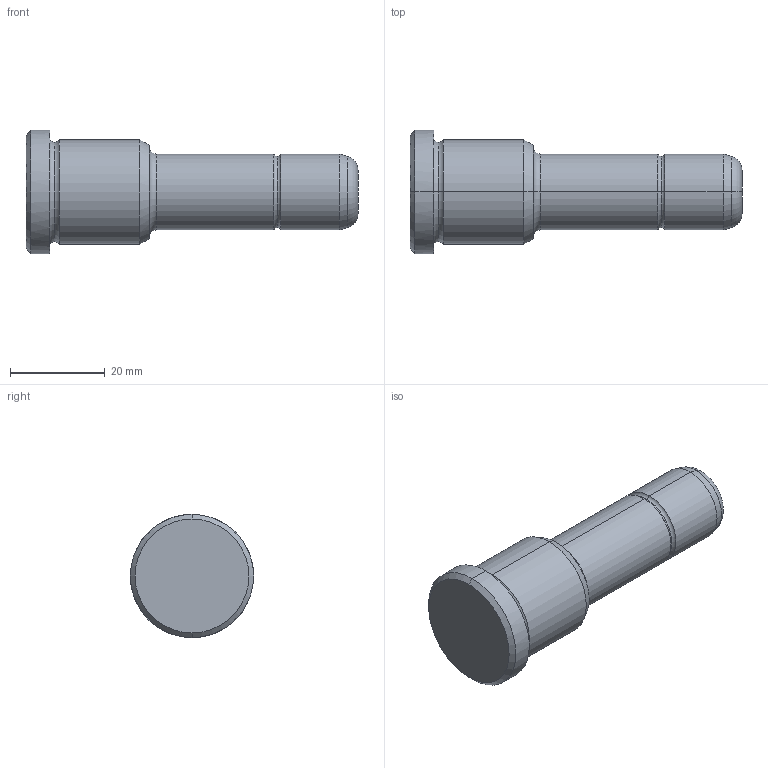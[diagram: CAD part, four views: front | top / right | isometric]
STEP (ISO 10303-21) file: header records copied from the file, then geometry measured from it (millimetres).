
FILE_DESCRIPTION(('CATIA V5 STEP Exchange'),'2;1');
FILE_NAME('C:\Users\Utente\Desktop\IO LAVORO\3D X SITO CF\X SITO\PLASTICA\351\351-16X26X70.stp','2021-08-18T10:53:30+00:00',('none'),('none'),'CATIA Version 5 Release 20 GA (IN-10)','CATIA V5 STEP AP203','none');
FILE_SCHEMA(('CONFIG_CONTROL_DESIGN'));
Length unit declared in the file: millimetre
Products named in the file (1): 351-16X26X70
Bounding box: 70 x 26 x 26 mm (x, y, z)
Volume: 19172.6 mm3; surface area: 4936.5 mm2
Topology: 1 solids, 1 shells, 30 faces, 86 edges, 60 vertices
Faces by surface type: torus 12, cylinder 8, cone 6, plane 4
Entity records: 1112 total; most frequent: CARTESIAN_POINT 289, ORIENTED_EDGE 172, DIRECTION 138, AXIS2_PLACEMENT_3D 95, EDGE_CURVE 86, CIRCLE 64, VERTEX_POINT 60, EDGE_LOOP 32
